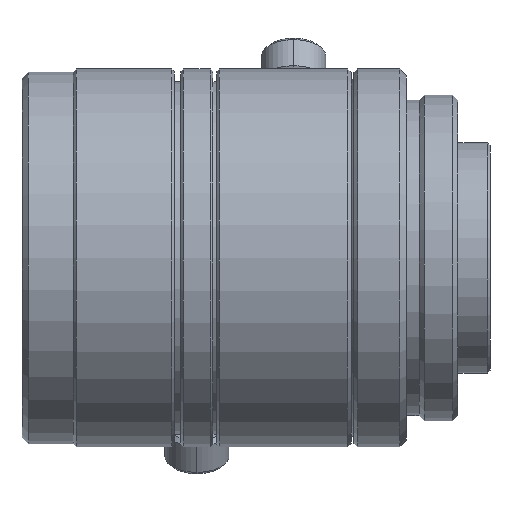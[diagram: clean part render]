
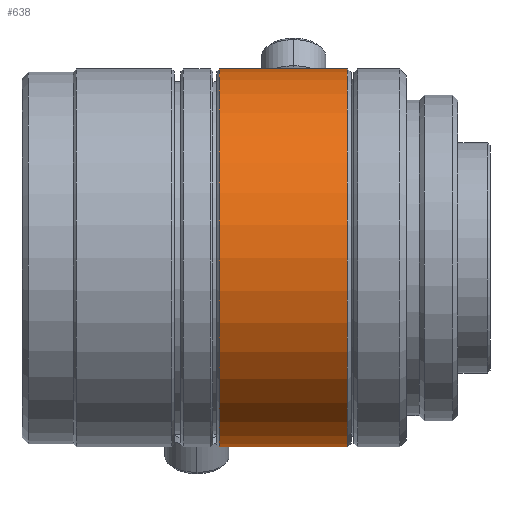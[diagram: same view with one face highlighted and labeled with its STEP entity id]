
A CAD part, front view. The second image highlights one B-rep face of the part: STEP entity #638.
In plain terms, the highlighted cylindrical face has radius 14.75 mm (diameter 29.5 mm), a partial arc.
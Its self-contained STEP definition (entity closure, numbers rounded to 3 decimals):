
#81 = DIRECTION ( 'NONE',  ( 1., 0., 0. ) ) ;
#96 = AXIS2_PLACEMENT_3D ( 'NONE', #2033, #571, #1077 ) ;
#293 = EDGE_CURVE ( 'NONE', #2428, #2153, #611, .T. ) ;
#344 = CARTESIAN_POINT ( 'NONE',  ( -22.1, 0., 14.75 ) ) ;
#454 = CYLINDRICAL_SURFACE ( 'NONE', #1995, 14.75 ) ;
#571 = DIRECTION ( 'NONE',  ( 1., 0., 0. ) ) ;
#611 = CIRCLE ( 'NONE', #96, 14.75 ) ;
#638 = ADVANCED_FACE ( 'NONE', ( #3115 ), #454, .T. ) ;
#785 = CARTESIAN_POINT ( 'NONE',  ( 0., 0., 0. ) ) ;
#998 = CARTESIAN_POINT ( 'NONE',  ( 0., 0., 14.75 ) ) ;
#1077 = DIRECTION ( 'NONE',  ( 0., 0., -1. ) ) ;
#1216 = CARTESIAN_POINT ( 'NONE',  ( -32.1, 0., 14.75 ) ) ;
#1223 = LINE ( 'NONE', #1566, #1781 ) ;
#1294 = CIRCLE ( 'NONE', #2628, 14.75 ) ;
#1423 = EDGE_CURVE ( 'NONE', #2213, #2428, #3097, .T. ) ;
#1429 = CARTESIAN_POINT ( 'NONE',  ( -32.1, 0., 0. ) ) ;
#1436 = ORIENTED_EDGE ( 'NONE', *, *, #293, .F. ) ;
#1472 = EDGE_LOOP ( 'NONE', ( #2218, #1708, #1581, #1436 ) ) ;
#1527 = DIRECTION ( 'NONE',  ( 1., 0., 0. ) ) ;
#1566 = CARTESIAN_POINT ( 'NONE',  ( 0., 0., -14.75 ) ) ;
#1581 = ORIENTED_EDGE ( 'NONE', *, *, #2365, .T. ) ;
#1672 = DIRECTION ( 'NONE',  ( 0., 0., -1. ) ) ;
#1708 = ORIENTED_EDGE ( 'NONE', *, *, #2106, .T. ) ;
#1731 = DIRECTION ( 'NONE',  ( 1., 0., 0. ) ) ;
#1781 = VECTOR ( 'NONE', #81, 1000. ) ;
#1995 = AXIS2_PLACEMENT_3D ( 'NONE', #785, #1527, #2001 ) ;
#2001 = DIRECTION ( 'NONE',  ( 0., 0., -1. ) ) ;
#2033 = CARTESIAN_POINT ( 'NONE',  ( -22.1, 0., 0. ) ) ;
#2106 = EDGE_CURVE ( 'NONE', #2213, #2833, #1294, .T. ) ;
#2153 = VERTEX_POINT ( 'NONE', #3118 ) ;
#2213 = VERTEX_POINT ( 'NONE', #1216 ) ;
#2218 = ORIENTED_EDGE ( 'NONE', *, *, #1423, .F. ) ;
#2365 = EDGE_CURVE ( 'NONE', #2833, #2153, #1223, .T. ) ;
#2428 = VERTEX_POINT ( 'NONE', #344 ) ;
#2451 = VECTOR ( 'NONE', #1731, 1000. ) ;
#2628 = AXIS2_PLACEMENT_3D ( 'NONE', #1429, #3109, #1672 ) ;
#2833 = VERTEX_POINT ( 'NONE', #2975 ) ;
#2975 = CARTESIAN_POINT ( 'NONE',  ( -32.1, 0., -14.75 ) ) ;
#3097 = LINE ( 'NONE', #998, #2451 ) ;
#3109 = DIRECTION ( 'NONE',  ( 1., 0., 0. ) ) ;
#3115 = FACE_OUTER_BOUND ( 'NONE', #1472, .T. ) ;
#3118 = CARTESIAN_POINT ( 'NONE',  ( -22.1, 0., -14.75 ) ) ;
